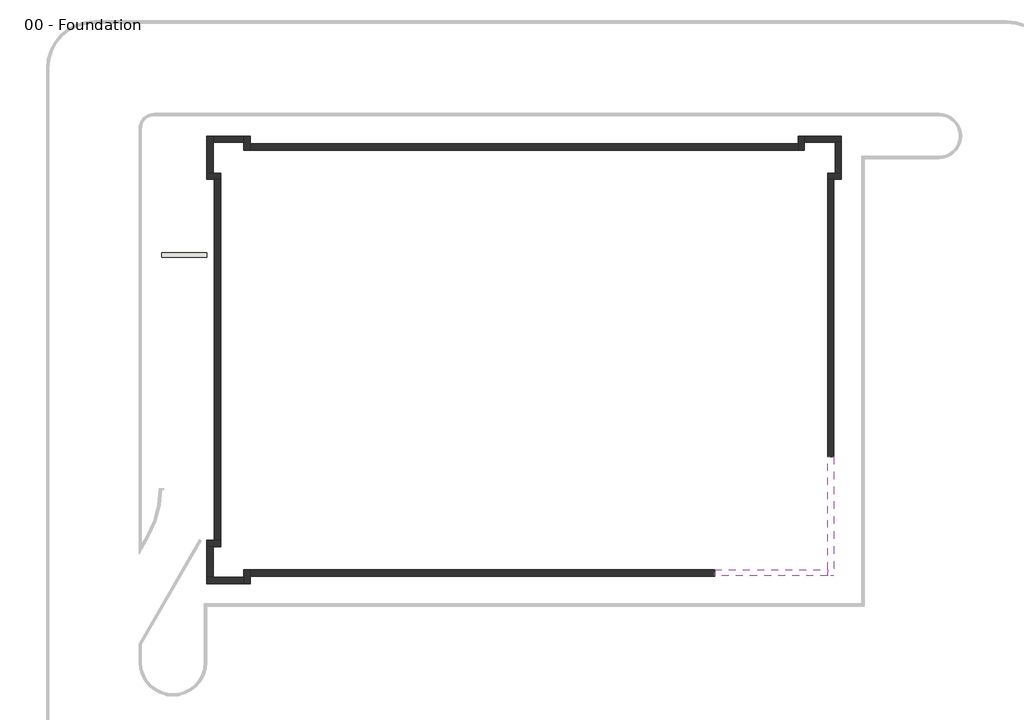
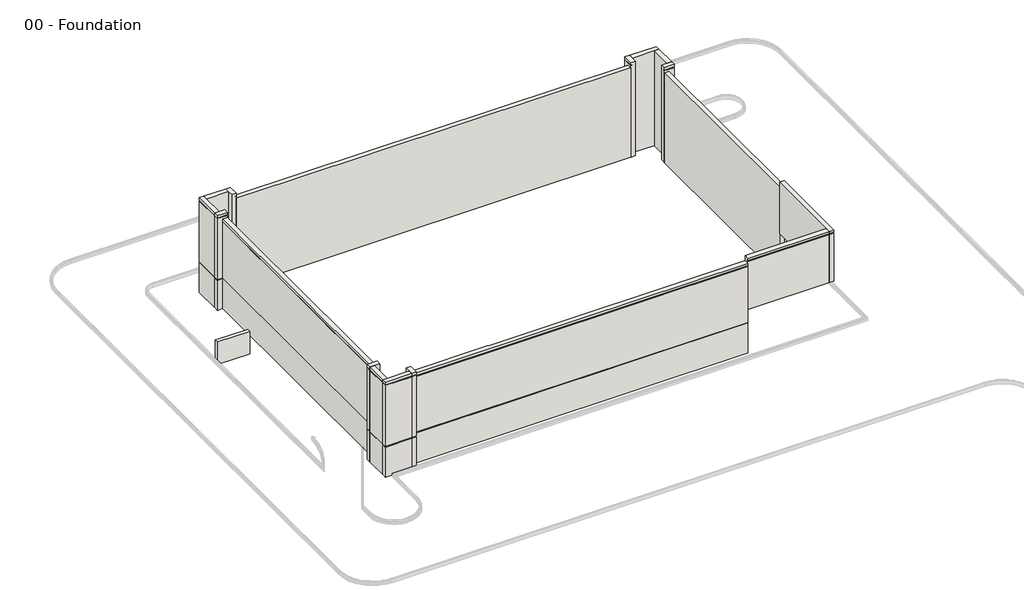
# One storey, part 1 of 2: 19 walls.
"""IFC4 building model written with IfcOpenShell, lengths in millimetres."""

from ifc_helpers import new_model, si_unit, frame, origin, place, context, project, spatial, polyline, outline, extrude, faceted_brep, element, save

model = new_model("IFC4")

# Units and contexts
model_context = context("Model", 3, world=origin())
ifc_project = project(units=[si_unit("LENGTHUNIT", "METRE", prefix="MILLI")], contexts=[model_context])

# Site, building, storey
site = spatial("IfcSite", under=ifc_project)
building = spatial("IfcBuilding", under=site)
storey = spatial("IfcBuildingStorey", under=building, Name="00 - Foundation", Elevation=-1250.0)

# Walls
placement = place(None, origin())
element("IfcWall", 1, ObjectType="Exterior - Render on Brick on Block @ Entry", at=placement, inside=storey, context=model_context, shape_type="Brep", body=[
    faceted_brep([(18351.5272279, -6481.9313057, 3000.0), (18351.5272279, -13977.9313057, 3000.0), (18351.5272279, -14406.9313057, 3000.0), (18351.5272279, -14406.9313057, 7700.0), (18351.5272279, -14331.9313057, 7700.0), (18351.5272279, -14331.9313057, 7775.0), (18351.5272279, -14406.9313057, 7775.0), (18351.5272279, -14406.9313057, 8000.0), (18351.5272279, -13977.9313057, 8000.0), (18351.5272279, -6481.9313057, 8000.0), (18351.5272279, -6481.9313057, 7500.0), (18780.5272279, -14406.9313057, 3000.0), (18780.5272279, -6481.9313057, 3000.0), (18780.5272279, -6481.9313057, 7200.0), (18780.5272279, -6481.9313057, 7275.0), (18780.5272279, -6481.9313057, 7500.0), (18780.5272279, -6481.9313057, 7700.0), (18780.5272279, -14406.9313057, 7700.0), (18780.5272279, -6481.9313057, 8000.0), (18780.5272279, -14406.9313057, 8000.0), (18780.5272279, -14406.9313057, 7775.0), (18780.5272279, -6481.9313057, 7775.0), (18705.5272279, -6481.9313057, 7775.0), (18705.5272279, -6481.9313057, 7700.0), (18705.5272279, -14331.9313057, 7775.0), (18705.5272279, -14331.9313057, 7700.0)], [[[0, 1, 2, 3, 4, 5, 6, 7, 8, 9, 10]], [[11, 12, 13, 14, 15, 16, 17]], [[18, 19, 20, 21]], [[2, 1, 0, 12, 11]], [[9, 8, 7, 19, 18]], [[0, 10, 9, 18, 21, 22, 23, 16, 15, 14, 13, 12]], [[24, 22, 21, 20, 6, 5]], [[23, 25, 4, 3, 17, 16]], [[22, 24, 25, 23]], [[2, 11, 17, 3]], [[19, 7, 6, 20]], [[25, 24, 5, 4]]]),
])
element("IfcWall", 2, ObjectType="Exterior - Render on Brick on Block @ Entry", at=placement, inside=storey, context=model_context, shape_type="Brep", body=[
    faceted_brep([(18351.5272279, -13977.9313057, 3000.0), (10855.5272279, -13977.9313057, 3000.0), (10855.5272279, -13977.9313057, 7500.0), (10855.5272279, -13977.9313057, 8000.0), (18351.5272279, -13977.9313057, 8000.0), (10855.5272279, -14406.9313057, 3000.0), (18351.5272279, -14406.9313057, 3000.0), (18351.5272279, -14406.9313057, 7700.0), (10855.5272279, -14406.9313057, 7700.0), (10855.5272279, -14406.9313057, 7500.0), (10855.5272279, -14406.9313057, 7275.0), (10855.5272279, -14406.9313057, 7200.0), (18351.5272279, -14406.9313057, 8000.0), (10855.5272279, -14406.9313057, 8000.0), (10855.5272279, -14406.9313057, 7775.0), (18351.5272279, -14406.9313057, 7775.0), (10855.5272279, -14331.9313057, 7700.0), (10855.5272279, -14331.9313057, 7775.0), (18351.5272279, -14331.9313057, 7700.0), (18351.5272279, -14331.9313057, 7775.0)], [[[0, 1, 2, 3, 4]], [[5, 6, 7, 8, 9, 10, 11]], [[12, 13, 14, 15]], [[1, 0, 6, 5]], [[3, 2, 1, 5, 11, 10, 9, 8, 16, 17, 14, 13]], [[4, 3, 13, 12]], [[16, 18, 19, 17]], [[0, 4, 12, 15, 19, 18, 7, 6]], [[17, 19, 15, 14]], [[18, 16, 8, 7]]]),
])
element("IfcWall", 3, ObjectType="Exterior - Render on Brick on Block", at=placement, inside=storey, context=model_context, shape_type="Brep", body=[
    faceted_brep([(10855.5272279, -13977.9313057, -1250.0), (-20031.4727721, -13977.9313057, -1250.0), (-20031.4727721, -13977.9313057, 7500.0), (-12988.7227721, -13977.9313057, 7500.0), (-12850.2227721, -13977.9313057, 7500.0), (10855.5272279, -13977.9313057, 7500.0), (10855.5272279, -13977.9313057, 3000.0), (10855.5272279, -14406.9313057, 7500.0), (-20031.4727721, -14406.9313057, 7500.0), (-20031.4727721, -14406.9313057, 7275.0), (10855.5272279, -14406.9313057, 7275.0), (-20031.4727721, -14406.9313057, -1250.0), (10855.5272279, -14406.9313057, -1250.0), (10855.5272279, -14406.9313057, 1675.0), (-20031.4727721, -14406.9313057, 1675.0), (-20031.4727721, -14406.9313057, 1750.0), (10855.5272279, -14406.9313057, 1750.0), (10855.5272279, -14406.9313057, 7200.0), (-20031.4727721, -14406.9313057, 7200.0), (10855.5272279, -14331.9313057, 7275.0), (10855.5272279, -14331.9313057, 7200.0), (10855.5272279, -14331.9313057, 1750.0), (10855.5272279, -14331.9313057, 1675.0), (10855.5272279, -14381.9313057, -1250.0), (-20031.4727721, -14381.9313057, -1250.0), (-20031.4727721, -14331.9313057, 1750.0), (-20031.4727721, -14331.9313057, 1675.0), (-20031.4727721, -14331.9313057, 7275.0), (-20031.4727721, -14331.9313057, 7200.0)], [[[0, 1, 2, 3, 4, 5, 6]], [[7, 8, 9, 10]], [[11, 12, 13, 14]], [[15, 16, 17, 18]], [[5, 4, 3, 2, 8, 7]], [[0, 6, 5, 7, 10, 19, 20, 17, 16, 21, 22, 13, 12, 23]], [[1, 0, 23, 24]], [[23, 12, 11, 24]], [[16, 15, 25, 21]], [[14, 13, 22, 26]], [[22, 21, 25, 26]], [[27, 19, 10, 9]], [[20, 28, 18, 17]], [[19, 27, 28, 20]], [[2, 1, 24, 11, 14, 26, 25, 15, 18, 28, 27, 9, 8]]]),
])
element("IfcWall", 4, ObjectType="Exterior - Render on Brick on Block", at=placement, inside=storey, context=model_context, shape_type="Brep", body=[
    faceted_brep([(-20460.4727721, -13977.9313057, -1250.0), (-20460.4727721, -14477.7313057, -1250.0), (-20460.4727721, -14906.7313057, -1250.0), (-20460.4727721, -14906.7313057, 1675.0), (-20460.4727721, -14831.7313057, 1675.0), (-20460.4727721, -14831.7313057, 1750.0), (-20460.4727721, -14906.7313057, 1750.0), (-20460.4727721, -14906.7313057, 7700.0), (-20460.4727721, -14831.7313057, 7700.0), (-20460.4727721, -14831.7313057, 7775.0), (-20460.4727721, -14906.7313057, 7775.0), (-20460.4727721, -14906.7313057, 8000.0), (-20460.4727721, -14477.7313057, 8000.0), (-20460.4727721, -13977.9313057, 8000.0), (-20031.4727721, -13977.9313057, 8000.0), (-20031.4727721, -14906.7313057, 8000.0), (-20031.4727721, -14906.7313057, 7775.0), (-20031.4727721, -13977.9313057, 7775.0), (-20031.4727721, -14906.7313057, -1250.0), (-20031.4727721, -14406.9313057, -1250.0), (-20031.4727721, -13977.9313057, -1250.0), (-20031.4727721, -13977.9313057, 7500.0), (-20031.4727721, -13977.9313057, 7700.0), (-20031.4727721, -14906.7313057, 7700.0), (-20031.4727721, -14906.7313057, 1750.0), (-20031.4727721, -14406.9313057, 1750.0), (-20031.4727721, -14331.9313057, 1750.0), (-20031.4727721, -14331.9313057, 1675.0), (-20031.4727721, -14406.9313057, 1675.0), (-20031.4727721, -14906.7313057, 1675.0), (-20056.4727721, -13977.9313057, -1250.0), (-20056.4727721, -14906.7313057, -1250.0), (-20106.4727721, -14331.9313057, 1675.0), (-20106.4727721, -14331.9313057, 1750.0), (-20106.4727721, -14831.7313057, 1750.0), (-20106.4727721, -14831.7313057, 1675.0), (-20106.4727721, -14831.7313057, 7775.0), (-20106.4727721, -13977.9313057, 7775.0), (-20106.4727721, -13977.9313057, 7700.0), (-20106.4727721, -14831.7313057, 7700.0)], [[[0, 1, 2, 3, 4, 5, 6, 7, 8, 9, 10, 11, 12, 13]], [[14, 15, 16, 17]], [[18, 19, 20, 21, 22, 23, 24, 25, 26, 27, 28, 29]], [[13, 12, 11, 15, 14]], [[2, 1, 0, 30, 31]], [[32, 33, 34, 35]], [[36, 37, 17, 16, 10, 9]], [[38, 39, 8, 7, 23, 22]], [[37, 36, 39, 38]], [[0, 13, 14, 17, 37, 38, 22, 21, 20, 30]], [[20, 19, 18, 31, 30]], [[34, 33, 26, 25, 24, 6, 5]], [[32, 35, 4, 3, 29, 28, 27]], [[33, 32, 27, 26]], [[15, 11, 10, 16]], [[2, 31, 18, 29, 3]], [[6, 24, 23, 7]], [[35, 34, 5, 4]], [[39, 36, 9, 8]]]),
])
element("IfcWall", 5, ObjectType="Exterior - Render on Brick on Block", at=placement, inside=storey, context=model_context, shape_type="Brep", body=[
    faceted_brep([(-20460.4727721, -14477.7313057, -1250.0), (-22490.4727721, -14477.7313057, -1250.0), (-22919.4727721, -14477.7313057, -1250.0), (-22919.4727721, -14477.7313057, 1675.0), (-22844.4727721, -14477.7313057, 1675.0), (-22844.4727721, -14477.7313057, 1750.0), (-22919.4727721, -14477.7313057, 1750.0), (-22919.4727721, -14477.7313057, 7700.0), (-22844.4727721, -14477.7313057, 7700.0), (-22844.4727721, -14477.7313057, 7775.0), (-22919.4727721, -14477.7313057, 7775.0), (-22919.4727721, -14477.7313057, 8000.0), (-22490.4727721, -14477.7313057, 8000.0), (-20460.4727721, -14477.7313057, 8000.0), (-20460.4727721, -14906.7313057, 8000.0), (-22919.4727721, -14906.7313057, 8000.0), (-22919.4727721, -14906.7313057, 7775.0), (-20460.4727721, -14906.7313057, 7775.0), (-22919.4727721, -14906.7313057, -1250.0), (-20460.4727721, -14906.7313057, -1250.0), (-20460.4727721, -14906.7313057, 1675.0), (-22919.4727721, -14906.7313057, 1675.0), (-22919.4727721, -14906.7313057, 1750.0), (-20460.4727721, -14906.7313057, 1750.0), (-20460.4727721, -14906.7313057, 7700.0), (-22919.4727721, -14906.7313057, 7700.0), (-20460.4727721, -14881.7313057, -1250.0), (-22919.4727721, -14881.7313057, -1250.0), (-22844.4727721, -14831.7313057, 1675.0), (-20460.4727721, -14831.7313057, 1675.0), (-20460.4727721, -14831.7313057, 1750.0), (-22844.4727721, -14831.7313057, 1750.0), (-22844.4727721, -14831.7313057, 7775.0), (-22844.4727721, -14831.7313057, 7700.0), (-20460.4727721, -14831.7313057, 7700.0), (-20460.4727721, -14831.7313057, 7775.0)], [[[0, 1, 2, 3, 4, 5, 6, 7, 8, 9, 10, 11, 12, 13]], [[14, 15, 16, 17]], [[18, 19, 20, 21]], [[22, 23, 24, 25]], [[13, 12, 11, 15, 14]], [[2, 1, 0, 26, 27]], [[28, 29, 30, 31]], [[32, 33, 34, 35]], [[0, 13, 14, 17, 35, 34, 24, 23, 30, 29, 20, 19, 26]], [[19, 18, 27, 26]], [[31, 30, 23, 22, 6, 5]], [[29, 28, 4, 3, 21, 20]], [[9, 32, 35, 17, 16, 10]], [[34, 33, 8, 7, 25, 24]], [[15, 11, 10, 16]], [[2, 27, 18, 21, 3]], [[6, 22, 25, 7]], [[28, 31, 5, 4]], [[33, 32, 9, 8]]]),
])
element("IfcWall", 6, ObjectType="Exterior - Render on Brick on Block", at=placement, inside=storey, context=model_context, shape_type="SweptSolid", body=[
    extrude(outline(polyline([(-1250.0, -22490.4727721), (8000.0, -22490.4727721), (8000.0, -22919.4727721), (7775.0, -22919.4727721), (7775.0, -22844.4727721), (7700.0, -22844.4727721), (7700.0, -22919.4727721), (1750.0, -22919.4727721), (1750.0, -22844.4727721), (1675.0, -22844.4727721), (1675.0, -22919.4727721), (-1250.0, -22919.4727721), (-1250.0, -22894.4727721), (-1250.0, -22490.4727721)])), frame((0.0, -14477.7313057, 0.0), z_axis=(0.0, 1.0, 0.0), x_axis=(0.0, 0.0, 1.0)), (0.0, 0.0, 1.0), 2030.0),
])
element("IfcWall", 7, ObjectType="Exterior - Render on Brick on Block", at=placement, inside=storey, context=model_context, shape_type="Brep", body=[
    faceted_brep([(-22919.4727721, -12447.7313057, -1250.0), (-22490.4727721, -12447.7313057, -1250.0), (-21990.4727721, -12447.7313057, -1250.0), (-21990.4727721, -12447.7313057, 8000.0), (-22490.4727721, -12447.7313057, 8000.0), (-22919.4727721, -12447.7313057, 8000.0), (-22919.4727721, -12447.7313057, 7775.0), (-22844.4727721, -12447.7313057, 7775.0), (-22844.4727721, -12447.7313057, 7700.0), (-22919.4727721, -12447.7313057, 7700.0), (-22919.4727721, -12447.7313057, 1750.0), (-22844.4727721, -12447.7313057, 1750.0), (-22844.4727721, -12447.7313057, 1675.0), (-22919.4727721, -12447.7313057, 1675.0), (-22919.4727721, -12018.7313057, 8000.0), (-21990.4727721, -12018.7313057, 8000.0), (-21990.4727721, -12018.7313057, 7775.0), (-22919.4727721, -12018.7313057, 7775.0), (-21990.4727721, -12018.7313057, -1250.0), (-22419.4727721, -12018.7313057, -1250.0), (-22919.4727721, -12018.7313057, -1250.0), (-22919.4727721, -12018.7313057, 1675.0), (-22419.4727721, -12018.7313057, 1675.0), (-22344.4727721, -12018.7313057, 1675.0), (-22344.4727721, -12018.7313057, 1750.0), (-22419.4727721, -12018.7313057, 1750.0), (-22919.4727721, -12018.7313057, 1750.0), (-22919.4727721, -12018.7313057, 7700.0), (-21990.4727721, -12018.7313057, 7700.0), (-21990.4727721, -12018.7313057, 7500.0), (-22919.4727721, -12043.7313057, -1250.0), (-21990.4727721, -12043.7313057, -1250.0), (-22844.4727721, -12093.7313057, 1675.0), (-22844.4727721, -12093.7313057, 1750.0), (-22344.4727721, -12093.7313057, 1750.0), (-22344.4727721, -12093.7313057, 1675.0), (-22844.4727721, -12093.7313057, 7775.0), (-21990.4727721, -12093.7313057, 7775.0), (-21990.4727721, -12093.7313057, 7700.0), (-22844.4727721, -12093.7313057, 7700.0)], [[[0, 1, 2, 3, 4, 5, 6, 7, 8, 9, 10, 11, 12, 13]], [[14, 15, 16, 17]], [[18, 19, 20, 21, 22, 23, 24, 25, 26, 27, 28, 29]], [[5, 4, 3, 15, 14]], [[2, 1, 0, 30, 31]], [[32, 33, 34, 35]], [[36, 37, 38, 39]], [[5, 14, 17, 6]], [[30, 0, 13, 21, 20]], [[26, 10, 9, 27]], [[20, 19, 18, 31, 30]], [[34, 33, 11, 10, 26, 25, 24]], [[32, 35, 23, 22, 21, 13, 12]], [[33, 32, 12, 11]], [[37, 36, 7, 6, 17, 16]], [[39, 38, 28, 27, 9, 8]], [[36, 39, 8, 7]], [[3, 2, 31, 18, 29, 28, 38, 37, 16, 15]], [[35, 34, 24, 23]]]),
])
element("IfcWall", 8, ObjectType="Exterior - Render on Brick on Block", at=placement, inside=storey, context=model_context, shape_type="Brep", body=[
    faceted_brep([(-21990.4727721, -12018.7313057, -1250.0), (-21990.4727721, 11955.0686943, -1250.0), (-21990.4727721, 11955.0686943, 7500.0), (-21990.4727721, -3637.6813057, 7500.0), (-21990.4727721, -3776.1813057, 7500.0), (-21990.4727721, -9826.1813057, 7500.0), (-21990.4727721, -9964.6813057, 7500.0), (-21990.4727721, -12018.7313057, 7500.0), (-22419.4727721, -12018.7313057, 7500.0), (-22419.4727721, 11955.0686943, 7500.0), (-22419.4727721, 11955.0686943, 7275.0), (-22419.4727721, -12018.7313057, 7275.0), (-22419.4727721, 11955.0686943, -1250.0), (-22419.4727721, -12018.7313057, -1250.0), (-22419.4727721, -12018.7313057, 1675.0), (-22419.4727721, 11955.0686943, 1675.0), (-22419.4727721, 11955.0686943, 1750.0), (-22419.4727721, -12018.7313057, 1750.0), (-22419.4727721, -12018.7313057, 7200.0), (-22419.4727721, 11955.0686943, 7200.0), (-22394.4727721, -12018.7313057, -1250.0), (-22394.4727721, 11955.0686943, -1250.0), (-22344.4727721, -12018.7313057, 1675.0), (-22344.4727721, -12018.7313057, 1750.0), (-22344.4727721, 11955.0686943, 1750.0), (-22344.4727721, 11955.0686943, 1675.0), (-22344.4727721, 11955.0686943, 7275.0), (-22344.4727721, -12018.7313057, 7275.0), (-22344.4727721, -12018.7313057, 7200.0), (-22344.4727721, 11955.0686943, 7200.0)], [[[0, 1, 2, 3, 4, 5, 6, 7]], [[8, 9, 10, 11]], [[12, 13, 14, 15]], [[16, 17, 18, 19]], [[7, 6, 5, 4, 3, 2, 9, 8]], [[1, 0, 20, 21]], [[22, 23, 24, 25]], [[26, 27, 11, 10]], [[28, 29, 19, 18]], [[27, 26, 29, 28]], [[0, 7, 8, 11, 27, 28, 18, 17, 23, 22, 14, 13, 20]], [[13, 12, 21, 20]], [[17, 16, 24, 23]], [[15, 14, 22, 25]], [[2, 1, 21, 12, 15, 25, 24, 16, 19, 29, 26, 10, 9]]]),
])
element("IfcWall", 9, ObjectType="Exterior - Render on Brick on Block", at=placement, inside=storey, context=model_context, shape_type="Brep", body=[
    faceted_brep([(-21990.4727721, 12384.0686943, -1250.0), (-22490.4727721, 12384.0686943, -1250.0), (-22919.4727721, 12384.0686943, -1250.0), (-22919.4727721, 12384.0686943, 1675.0), (-22844.4727721, 12384.0686943, 1675.0), (-22844.4727721, 12384.0686943, 1750.0), (-22919.4727721, 12384.0686943, 1750.0), (-22919.4727721, 12384.0686943, 7700.0), (-22844.4727721, 12384.0686943, 7700.0), (-22844.4727721, 12384.0686943, 7775.0), (-22919.4727721, 12384.0686943, 7775.0), (-22919.4727721, 12384.0686943, 8000.0), (-22490.4727721, 12384.0686943, 8000.0), (-21990.4727721, 12384.0686943, 8000.0), (-21990.4727721, 11955.0686943, 8000.0), (-22919.4727721, 11955.0686943, 8000.0), (-22919.4727721, 11955.0686943, 7775.0), (-21990.4727721, 11955.0686943, 7775.0), (-22919.4727721, 11955.0686943, -1250.0), (-22419.4727721, 11955.0686943, -1250.0), (-21990.4727721, 11955.0686943, -1250.0), (-21990.4727721, 11955.0686943, 7500.0), (-21990.4727721, 11955.0686943, 7700.0), (-22919.4727721, 11955.0686943, 7700.0), (-22919.4727721, 11955.0686943, 1750.0), (-22419.4727721, 11955.0686943, 1750.0), (-22344.4727721, 11955.0686943, 1750.0), (-22344.4727721, 11955.0686943, 1675.0), (-22419.4727721, 11955.0686943, 1675.0), (-22919.4727721, 11955.0686943, 1675.0), (-21990.4727721, 11980.0686943, -1250.0), (-22919.4727721, 11980.0686943, -1250.0), (-22344.4727721, 12030.0686943, 1675.0), (-22344.4727721, 12030.0686943, 1750.0), (-22844.4727721, 12030.0686943, 1750.0), (-22844.4727721, 12030.0686943, 1675.0), (-22844.4727721, 12030.0686943, 7775.0), (-21990.4727721, 12030.0686943, 7775.0), (-21990.4727721, 12030.0686943, 7700.0), (-22844.4727721, 12030.0686943, 7700.0)], [[[0, 1, 2, 3, 4, 5, 6, 7, 8, 9, 10, 11, 12, 13]], [[14, 15, 16, 17]], [[18, 19, 20, 21, 22, 23, 24, 25, 26, 27, 28, 29]], [[13, 12, 11, 15, 14]], [[2, 1, 0, 30, 31]], [[32, 33, 34, 35]], [[36, 37, 17, 16, 10, 9]], [[38, 39, 8, 7, 23, 22]], [[37, 36, 39, 38]], [[0, 13, 14, 17, 37, 38, 22, 21, 20, 30]], [[20, 19, 18, 31, 30]], [[34, 33, 26, 25, 24, 6, 5]], [[32, 35, 4, 3, 29, 28, 27]], [[33, 32, 27, 26]], [[15, 11, 10, 16]], [[2, 31, 18, 29, 3]], [[6, 24, 23, 7]], [[35, 34, 5, 4]], [[39, 36, 9, 8]]]),
])
element("IfcWall", 10, ObjectType="Exterior - Render on Brick on Block", at=placement, inside=storey, context=model_context, shape_type="Brep", body=[
    faceted_brep([(-22490.4727721, 12384.0686943, -1250.0), (-22490.4727721, 14414.0686943, -1250.0), (-22490.4727721, 14843.0686943, -1250.0), (-22490.4727721, 14843.0686943, 1675.0), (-22490.4727721, 14768.0686943, 1675.0), (-22490.4727721, 14768.0686943, 1750.0), (-22490.4727721, 14843.0686943, 1750.0), (-22490.4727721, 14843.0686943, 7700.0), (-22490.4727721, 14768.0686943, 7700.0), (-22490.4727721, 14768.0686943, 7775.0), (-22490.4727721, 14843.0686943, 7775.0), (-22490.4727721, 14843.0686943, 8000.0), (-22490.4727721, 14414.0686943, 8000.0), (-22490.4727721, 12384.0686943, 8000.0), (-22919.4727721, 12384.0686943, 8000.0), (-22919.4727721, 14843.0686943, 8000.0), (-22919.4727721, 14843.0686943, 7775.0), (-22919.4727721, 12384.0686943, 7775.0), (-22919.4727721, 14843.0686943, -1250.0), (-22919.4727721, 12384.0686943, -1250.0), (-22919.4727721, 12384.0686943, 1675.0), (-22919.4727721, 14843.0686943, 1675.0), (-22919.4727721, 14843.0686943, 1750.0), (-22919.4727721, 12384.0686943, 1750.0), (-22919.4727721, 12384.0686943, 7700.0), (-22919.4727721, 14843.0686943, 7700.0), (-22894.4727721, 12384.0686943, -1250.0), (-22894.4727721, 14843.0686943, -1250.0), (-22844.4727721, 14768.0686943, 1675.0), (-22844.4727721, 12384.0686943, 1675.0), (-22844.4727721, 12384.0686943, 1750.0), (-22844.4727721, 14768.0686943, 1750.0), (-22844.4727721, 14768.0686943, 7775.0), (-22844.4727721, 14768.0686943, 7700.0), (-22844.4727721, 12384.0686943, 7700.0), (-22844.4727721, 12384.0686943, 7775.0)], [[[0, 1, 2, 3, 4, 5, 6, 7, 8, 9, 10, 11, 12, 13]], [[14, 15, 16, 17]], [[18, 19, 20, 21]], [[22, 23, 24, 25]], [[13, 12, 11, 15, 14]], [[2, 1, 0, 26, 27]], [[28, 29, 30, 31]], [[32, 33, 34, 35]], [[0, 13, 14, 17, 35, 34, 24, 23, 30, 29, 20, 19, 26]], [[19, 18, 27, 26]], [[31, 30, 23, 22, 6, 5]], [[29, 28, 4, 3, 21, 20]], [[9, 32, 35, 17, 16, 10]], [[34, 33, 8, 7, 25, 24]], [[15, 11, 10, 16]], [[2, 27, 18, 21, 3]], [[6, 22, 25, 7]], [[28, 31, 5, 4]], [[33, 32, 9, 8]]]),
])
element("IfcWall", 11, ObjectType="Exterior - Render on Brick on Block", at=placement, inside=storey, context=model_context, shape_type="SweptSolid", body=[
    extrude(outline(polyline([(14414.0686943, -1250.0), (14414.0686943, 8000.0), (14843.0686943, 8000.0), (14843.0686943, 7775.0), (14768.0686943, 7775.0), (14768.0686943, 7700.0), (14843.0686943, 7700.0), (14843.0686943, 1750.0), (14768.0686943, 1750.0), (14768.0686943, 1675.0), (14843.0686943, 1675.0), (14843.0686943, -1250.0), (14818.0686943, -1250.0), (14414.0686943, -1250.0)])), frame((-22490.4727721, 0.0, 0.0), z_axis=(1.0, 0.0, 0.0), x_axis=(0.0, 1.0, 0.0)), (0.0, 0.0, 1.0), 2030.0),
])
element("IfcWall", 12, ObjectType="Exterior - Render on Brick on Block", at=placement, inside=storey, context=model_context, shape_type="Brep", body=[
    faceted_brep([(-20460.4727721, 14843.0686943, -1250.0), (-20460.4727721, 14414.0686943, -1250.0), (-20460.4727721, 13914.0686943, -1250.0), (-20460.4727721, 13914.0686943, 8000.0), (-20460.4727721, 14414.0686943, 8000.0), (-20460.4727721, 14843.0686943, 8000.0), (-20460.4727721, 14843.0686943, 7775.0), (-20460.4727721, 14768.0686943, 7775.0), (-20460.4727721, 14768.0686943, 7700.0), (-20460.4727721, 14843.0686943, 7700.0), (-20460.4727721, 14843.0686943, 1750.0), (-20460.4727721, 14768.0686943, 1750.0), (-20460.4727721, 14768.0686943, 1675.0), (-20460.4727721, 14843.0686943, 1675.0), (-20031.4727721, 14843.0686943, 8000.0), (-20031.4727721, 13914.0686943, 8000.0), (-20031.4727721, 13914.0686943, 7775.0), (-20031.4727721, 14843.0686943, 7775.0), (-20031.4727721, 13914.0686943, -1250.0), (-20031.4727721, 14343.0686943, -1250.0), (-20031.4727721, 14843.0686943, -1250.0), (-20031.4727721, 14843.0686943, 1675.0), (-20031.4727721, 14343.0686943, 1675.0), (-20031.4727721, 14268.0686943, 1675.0), (-20031.4727721, 14268.0686943, 1750.0), (-20031.4727721, 14343.0686943, 1750.0), (-20031.4727721, 14843.0686943, 1750.0), (-20031.4727721, 14843.0686943, 7700.0), (-20031.4727721, 13914.0686943, 7700.0), (-20031.4727721, 13914.0686943, 7500.0), (-20056.4727721, 14843.0686943, -1250.0), (-20056.4727721, 13914.0686943, -1250.0), (-20106.4727721, 14768.0686943, 1675.0), (-20106.4727721, 14768.0686943, 1750.0), (-20106.4727721, 14268.0686943, 1750.0), (-20106.4727721, 14268.0686943, 1675.0), (-20106.4727721, 14768.0686943, 7775.0), (-20106.4727721, 13914.0686943, 7775.0), (-20106.4727721, 13914.0686943, 7700.0), (-20106.4727721, 14768.0686943, 7700.0)], [[[0, 1, 2, 3, 4, 5, 6, 7, 8, 9, 10, 11, 12, 13]], [[14, 15, 16, 17]], [[18, 19, 20, 21, 22, 23, 24, 25, 26, 27, 28, 29]], [[5, 4, 3, 15, 14]], [[2, 1, 0, 30, 31]], [[32, 33, 34, 35]], [[36, 37, 38, 39]], [[5, 14, 17, 6]], [[30, 0, 13, 21, 20]], [[26, 10, 9, 27]], [[20, 19, 18, 31, 30]], [[34, 33, 11, 10, 26, 25, 24]], [[32, 35, 23, 22, 21, 13, 12]], [[33, 32, 12, 11]], [[37, 36, 7, 6, 17, 16]], [[39, 38, 28, 27, 9, 8]], [[36, 39, 8, 7]], [[3, 2, 31, 18, 29, 28, 38, 37, 16, 15]], [[35, 34, 24, 23]]]),
])
element("IfcWall", 13, ObjectType="Exterior - Render on Brick on Block", at=placement, inside=storey, context=model_context, shape_type="Brep", body=[
    faceted_brep([(-20031.4727721, 13914.0686943, -1250.0), (16392.5272279, 13914.0686943, -1250.0), (16392.5272279, 13914.0686943, 7500.0), (-14950.2227721, 13914.0686943, 7500.0), (-15088.7227721, 13914.0686943, 7500.0), (-20031.4727721, 13914.0686943, 7500.0), (-20031.4727721, 14343.0686943, 7500.0), (16392.5272279, 14343.0686943, 7500.0), (16392.5272279, 14343.0686943, 7275.0), (-20031.4727721, 14343.0686943, 7275.0), (16392.5272279, 14343.0686943, -1250.0), (-20031.4727721, 14343.0686943, -1250.0), (-20031.4727721, 14343.0686943, 1675.0), (16392.5272279, 14343.0686943, 1675.0), (16392.5272279, 14343.0686943, 1750.0), (-20031.4727721, 14343.0686943, 1750.0), (-20031.4727721, 14343.0686943, 7200.0), (16392.5272279, 14343.0686943, 7200.0), (-20031.4727721, 14318.0686943, -1250.0), (16392.5272279, 14318.0686943, -1250.0), (-20031.4727721, 14268.0686943, 1675.0), (-20031.4727721, 14268.0686943, 1750.0), (16392.5272279, 14268.0686943, 1750.0), (16392.5272279, 14268.0686943, 1675.0), (16392.5272279, 14268.0686943, 7275.0), (-20031.4727721, 14268.0686943, 7275.0), (-20031.4727721, 14268.0686943, 7200.0), (16392.5272279, 14268.0686943, 7200.0)], [[[0, 1, 2, 3, 4, 5]], [[6, 7, 8, 9]], [[10, 11, 12, 13]], [[14, 15, 16, 17]], [[5, 4, 3, 2, 7, 6]], [[1, 0, 18, 19]], [[20, 21, 22, 23]], [[24, 25, 9, 8]], [[26, 27, 17, 16]], [[25, 24, 27, 26]], [[0, 5, 6, 9, 25, 26, 16, 15, 21, 20, 12, 11, 18]], [[11, 10, 19, 18]], [[15, 14, 22, 21]], [[13, 12, 20, 23]], [[2, 1, 19, 10, 13, 23, 22, 14, 17, 27, 24, 8, 7]]]),
])
element("IfcWall", 14, ObjectType="Exterior - Render on Brick on Block", at=placement, inside=storey, context=model_context, shape_type="Brep", body=[
    faceted_brep([(16821.5272279, 13914.0686943, -1250.0), (16821.5272279, 14414.0686943, -1250.0), (16821.5272279, 14843.0686943, -1250.0), (16821.5272279, 14843.0686943, 1675.0), (16821.5272279, 14768.0686943, 1675.0), (16821.5272279, 14768.0686943, 1750.0), (16821.5272279, 14843.0686943, 1750.0), (16821.5272279, 14843.0686943, 7700.0), (16821.5272279, 14768.0686943, 7700.0), (16821.5272279, 14768.0686943, 7775.0), (16821.5272279, 14843.0686943, 7775.0), (16821.5272279, 14843.0686943, 8000.0), (16821.5272279, 14414.0686943, 8000.0), (16821.5272279, 13914.0686943, 8000.0), (16392.5272279, 13914.0686943, 8000.0), (16392.5272279, 14843.0686943, 8000.0), (16392.5272279, 14843.0686943, 7775.0), (16392.5272279, 13914.0686943, 7775.0), (16392.5272279, 14843.0686943, -1250.0), (16392.5272279, 14343.0686943, -1250.0), (16392.5272279, 13914.0686943, -1250.0), (16392.5272279, 13914.0686943, 7500.0), (16392.5272279, 13914.0686943, 7700.0), (16392.5272279, 14843.0686943, 7700.0), (16392.5272279, 14843.0686943, 1750.0), (16392.5272279, 14343.0686943, 1750.0), (16392.5272279, 14268.0686943, 1750.0), (16392.5272279, 14268.0686943, 1675.0), (16392.5272279, 14343.0686943, 1675.0), (16392.5272279, 14843.0686943, 1675.0), (16417.5272279, 13914.0686943, -1250.0), (16417.5272279, 14843.0686943, -1250.0), (16467.5272279, 14268.0686943, 1675.0), (16467.5272279, 14268.0686943, 1750.0), (16467.5272279, 14768.0686943, 1750.0), (16467.5272279, 14768.0686943, 1675.0), (16467.5272279, 14768.0686943, 7775.0), (16467.5272279, 13914.0686943, 7775.0), (16467.5272279, 13914.0686943, 7700.0), (16467.5272279, 14768.0686943, 7700.0)], [[[0, 1, 2, 3, 4, 5, 6, 7, 8, 9, 10, 11, 12, 13]], [[14, 15, 16, 17]], [[18, 19, 20, 21, 22, 23, 24, 25, 26, 27, 28, 29]], [[13, 12, 11, 15, 14]], [[2, 1, 0, 30, 31]], [[32, 33, 34, 35]], [[36, 37, 17, 16, 10, 9]], [[38, 39, 8, 7, 23, 22]], [[37, 36, 39, 38]], [[0, 13, 14, 17, 37, 38, 22, 21, 20, 30]], [[20, 19, 18, 31, 30]], [[34, 33, 26, 25, 24, 6, 5]], [[32, 35, 4, 3, 29, 28, 27]], [[33, 32, 27, 26]], [[15, 11, 10, 16]], [[2, 31, 18, 29, 3]], [[6, 24, 23, 7]], [[35, 34, 5, 4]], [[39, 36, 9, 8]]]),
])
element("IfcWall", 15, ObjectType="Exterior - Render on Brick on Block", at=placement, inside=storey, context=model_context, shape_type="Brep", body=[
    faceted_brep([(16821.5272279, 14414.0686943, -1250.0), (18851.5272279, 14414.0686943, -1250.0), (19280.5272279, 14414.0686943, -1250.0), (19280.5272279, 14414.0686943, 1675.0), (19205.5272279, 14414.0686943, 1675.0), (19205.5272279, 14414.0686943, 1750.0), (19280.5272279, 14414.0686943, 1750.0), (19280.5272279, 14414.0686943, 7700.0), (19205.5272279, 14414.0686943, 7700.0), (19205.5272279, 14414.0686943, 7775.0), (19280.5272279, 14414.0686943, 7775.0), (19280.5272279, 14414.0686943, 8000.0), (18851.5272279, 14414.0686943, 8000.0), (16821.5272279, 14414.0686943, 8000.0), (16821.5272279, 14843.0686943, 8000.0), (19280.5272279, 14843.0686943, 8000.0), (19280.5272279, 14843.0686943, 7775.0), (16821.5272279, 14843.0686943, 7775.0), (19280.5272279, 14843.0686943, -1250.0), (16821.5272279, 14843.0686943, -1250.0), (16821.5272279, 14843.0686943, 1675.0), (19280.5272279, 14843.0686943, 1675.0), (19280.5272279, 14843.0686943, 1750.0), (16821.5272279, 14843.0686943, 1750.0), (16821.5272279, 14843.0686943, 7700.0), (19280.5272279, 14843.0686943, 7700.0), (16821.5272279, 14818.0686943, -1250.0), (19280.5272279, 14818.0686943, -1250.0), (19205.5272279, 14768.0686943, 1675.0), (16821.5272279, 14768.0686943, 1675.0), (16821.5272279, 14768.0686943, 1750.0), (19205.5272279, 14768.0686943, 1750.0), (19205.5272279, 14768.0686943, 7775.0), (19205.5272279, 14768.0686943, 7700.0), (16821.5272279, 14768.0686943, 7700.0), (16821.5272279, 14768.0686943, 7775.0)], [[[0, 1, 2, 3, 4, 5, 6, 7, 8, 9, 10, 11, 12, 13]], [[14, 15, 16, 17]], [[18, 19, 20, 21]], [[22, 23, 24, 25]], [[13, 12, 11, 15, 14]], [[2, 1, 0, 26, 27]], [[28, 29, 30, 31]], [[32, 33, 34, 35]], [[0, 13, 14, 17, 35, 34, 24, 23, 30, 29, 20, 19, 26]], [[19, 18, 27, 26]], [[31, 30, 23, 22, 6, 5]], [[29, 28, 4, 3, 21, 20]], [[9, 32, 35, 17, 16, 10]], [[34, 33, 8, 7, 25, 24]], [[15, 11, 10, 16]], [[2, 27, 18, 21, 3]], [[6, 22, 25, 7]], [[28, 31, 5, 4]], [[33, 32, 9, 8]]]),
])
element("IfcWall", 16, ObjectType="Exterior - Render on Brick on Block", at=placement, inside=storey, context=model_context, shape_type="SweptSolid", body=[
    extrude(outline(polyline([(8000.0, 18851.5272279), (-1250.0, 18851.5272279), (-1250.0, 19255.5272279), (-1250.0, 19280.5272279), (1675.0, 19280.5272279), (1675.0, 19205.5272279), (1750.0, 19205.5272279), (1750.0, 19280.5272279), (7700.0, 19280.5272279), (7700.0, 19205.5272279), (7775.0, 19205.5272279), (7775.0, 19280.5272279), (8000.0, 19280.5272279), (8000.0, 18851.5272279)])), frame((0.0, 12384.0686943, 0.0), z_axis=(0.0, 1.0, 0.0), x_axis=(0.0, 0.0, 1.0)), (0.0, 0.0, 1.0), 2030.0),
])
element("IfcWall", 17, ObjectType="Exterior - Render on Brick on Block", at=placement, inside=storey, context=model_context, shape_type="Brep", body=[
    faceted_brep([(19280.5272279, 12384.0686943, -1250.0), (18851.5272279, 12384.0686943, -1250.0), (18351.5272279, 12384.0686943, -1250.0), (18351.5272279, 12384.0686943, 8000.0), (18851.5272279, 12384.0686943, 8000.0), (19280.5272279, 12384.0686943, 8000.0), (19280.5272279, 12384.0686943, 7775.0), (19205.5272279, 12384.0686943, 7775.0), (19205.5272279, 12384.0686943, 7700.0), (19280.5272279, 12384.0686943, 7700.0), (19280.5272279, 12384.0686943, 1750.0), (19205.5272279, 12384.0686943, 1750.0), (19205.5272279, 12384.0686943, 1675.0), (19280.5272279, 12384.0686943, 1675.0), (19280.5272279, 11955.0686943, 8000.0), (18351.5272279, 11955.0686943, 8000.0), (18351.5272279, 11955.0686943, 7775.0), (19280.5272279, 11955.0686943, 7775.0), (18351.5272279, 11955.0686943, -1250.0), (18780.5272279, 11955.0686943, -1250.0), (19280.5272279, 11955.0686943, -1250.0), (19280.5272279, 11955.0686943, 1675.0), (18780.5272279, 11955.0686943, 1675.0), (18705.5272279, 11955.0686943, 1675.0), (18705.5272279, 11955.0686943, 1750.0), (18780.5272279, 11955.0686943, 1750.0), (19280.5272279, 11955.0686943, 1750.0), (19280.5272279, 11955.0686943, 7700.0), (18351.5272279, 11955.0686943, 7700.0), (18351.5272279, 11955.0686943, 7500.0), (19280.5272279, 11980.0686943, -1250.0), (18351.5272279, 11980.0686943, -1250.0), (19205.5272279, 12030.0686943, 1675.0), (19205.5272279, 12030.0686943, 1750.0), (18705.5272279, 12030.0686943, 1750.0), (18705.5272279, 12030.0686943, 1675.0), (19205.5272279, 12030.0686943, 7775.0), (18351.5272279, 12030.0686943, 7775.0), (18351.5272279, 12030.0686943, 7700.0), (19205.5272279, 12030.0686943, 7700.0)], [[[0, 1, 2, 3, 4, 5, 6, 7, 8, 9, 10, 11, 12, 13]], [[14, 15, 16, 17]], [[18, 19, 20, 21, 22, 23, 24, 25, 26, 27, 28, 29]], [[5, 4, 3, 15, 14]], [[2, 1, 0, 30, 31]], [[32, 33, 34, 35]], [[36, 37, 38, 39]], [[5, 14, 17, 6]], [[30, 0, 13, 21, 20]], [[26, 10, 9, 27]], [[20, 19, 18, 31, 30]], [[34, 33, 11, 10, 26, 25, 24]], [[32, 35, 23, 22, 21, 13, 12]], [[33, 32, 12, 11]], [[37, 36, 7, 6, 17, 16]], [[39, 38, 28, 27, 9, 8]], [[36, 39, 8, 7]], [[3, 2, 31, 18, 29, 28, 38, 37, 16, 15]], [[35, 34, 24, 23]]]),
])
element("IfcWall", 18, ObjectType="Exterior - Render on Brick on Block", at=placement, inside=storey, context=model_context, shape_type="Brep", body=[
    faceted_brep([(18351.5272279, 11955.0686943, -1250.0), (18351.5272279, -6481.9313057, -1250.0), (18351.5272279, -6481.9313057, 3000.0), (18351.5272279, -6481.9313057, 7500.0), (18351.5272279, 11955.0686943, 7500.0), (18780.5272279, 11955.0686943, 7500.0), (18780.5272279, -6481.9313057, 7500.0), (18780.5272279, -6481.9313057, 7275.0), (18780.5272279, 11955.0686943, 7275.0), (18780.5272279, -6481.9313057, -1250.0), (18780.5272279, 11955.0686943, -1250.0), (18780.5272279, 11955.0686943, 1675.0), (18780.5272279, -6481.9313057, 1675.0), (18780.5272279, -6481.9313057, 1750.0), (18780.5272279, 11955.0686943, 1750.0), (18780.5272279, 11955.0686943, 7200.0), (18780.5272279, -6481.9313057, 7200.0), (18755.5272279, -6481.9313057, -1250.0), (18705.5272279, -6481.9313057, 1675.0), (18705.5272279, -6481.9313057, 1750.0), (18705.5272279, -6481.9313057, 7200.0), (18705.5272279, -6481.9313057, 7275.0), (18755.5272279, 11955.0686943, -1250.0), (18705.5272279, 11955.0686943, 1675.0), (18705.5272279, 11955.0686943, 1750.0), (18705.5272279, 11955.0686943, 7275.0), (18705.5272279, 11955.0686943, 7200.0)], [[[0, 1, 2, 3, 4]], [[5, 6, 7, 8]], [[9, 10, 11, 12]], [[13, 14, 15, 16]], [[3, 2, 1, 17, 9, 12, 18, 19, 13, 16, 20, 21, 7, 6]], [[4, 3, 6, 5]], [[1, 0, 22, 17]], [[19, 18, 23, 24]], [[21, 25, 8, 7]], [[26, 20, 16, 15]], [[25, 21, 20, 26]], [[0, 4, 5, 8, 25, 26, 15, 14, 24, 23, 11, 10, 22]], [[10, 9, 17, 22]], [[19, 24, 14, 13]], [[23, 18, 12, 11]]]),
])
element("IfcWall", 19, ObjectType="Foundation - 300mm Concrete", at=placement, inside=storey, context=model_context, shape_type="SweptSolid", body=[
    extrude(outline(polyline([(-25919.4727721, 7072.0686943), (-22919.4727721, 7072.0686943), (-22919.4727721, 6772.0686943), (-25919.4727721, 6772.0686943), (-25919.4727721, 7072.0686943)])), frame((0.0, 0.0, -2350.0), z_axis=(0.0, 0.0, 1.0), x_axis=(1.0, 0.0, 0.0)), (0.0, 0.0, 1.0), 2200.0),
])

save(model, "model.ifc")
